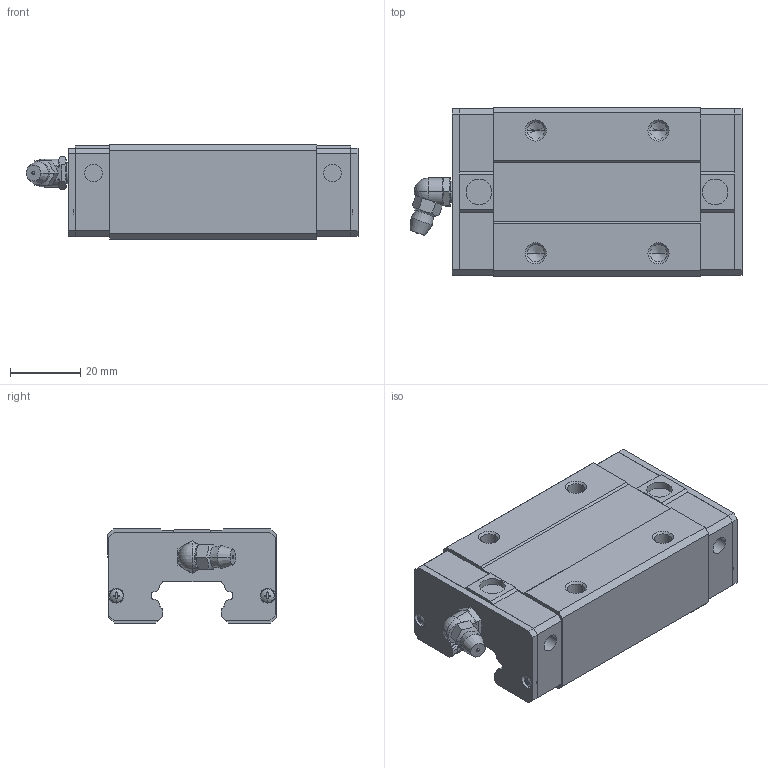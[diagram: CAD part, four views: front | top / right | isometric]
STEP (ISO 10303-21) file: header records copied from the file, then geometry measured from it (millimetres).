
FILE_DESCRIPTION(('starvars output'),'2;1');
FILE_NAME('cv20190609225357000174066.stp','22:53:57 2019/06/09',( 'Thomas Industrial Network Germany GmbH'),( 'Thomas Industrial Network Germany GmbH'),'unknown preprocess','ACIS' ,'unknown authorization');
FILE_SCHEMA(('CONFIG_CONTROL_DESIGN {UNKNOWN IMPLEMENTATION LEVEL}'));
Length unit declared in the file: millimetre
Products named in the file (10): PRODUCT_ID_11; PRODUCT_ID_12; PRODUCT_ID_13; PRODUCT_ID_14; PRODUCT_ID_15; PRODUCT_ID_16; PRODUCT_ID_17; PRODUCT_ID_18; PRODUCT_ID_19; PRODUCT_ID_20
Bounding box: 94.6 x 48 x 26.8 mm (x, y, z)
Volume: 83767.6 mm3; surface area: 26250 mm2
Topology: 10 solids, 10 shells, 425 faces, 1100 edges, 704 vertices
Faces by surface type: plane 214, cylinder 135, cone 64, sphere 12
Entity records: 12602 total; most frequent: ORIENTED_EDGE 2176, CARTESIAN_POINT 2062, DIRECTION 1857, EDGE_CURVE 1088, VERTEX_POINT 704, AXIS2_PLACEMENT_3D 625, VECTOR 607, LINE 607
